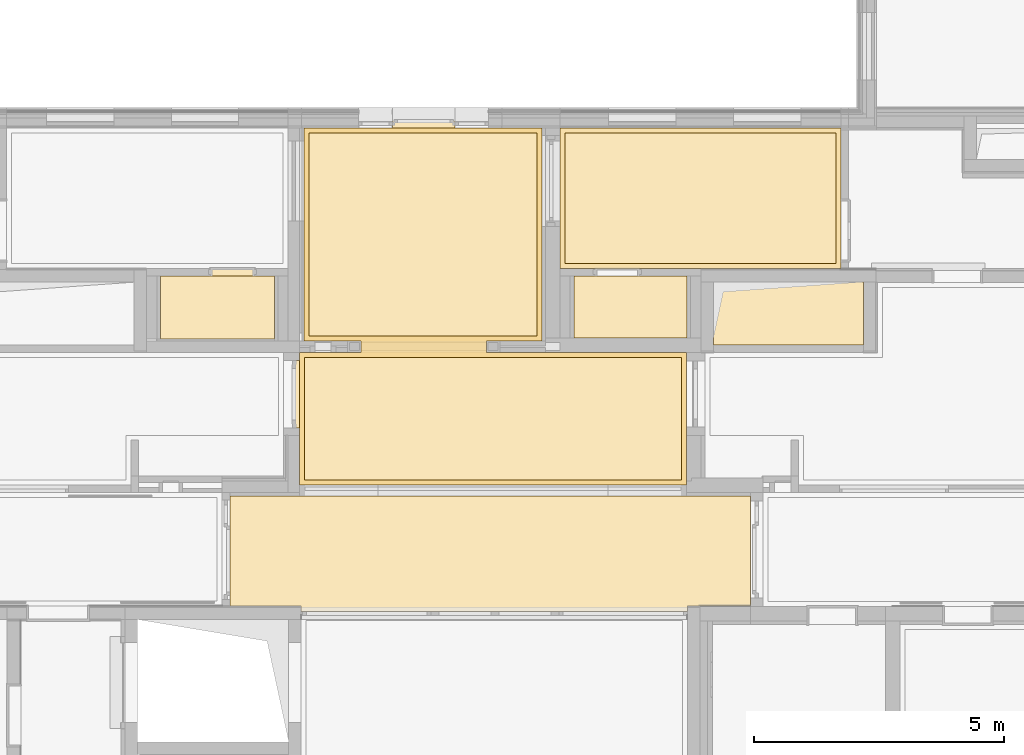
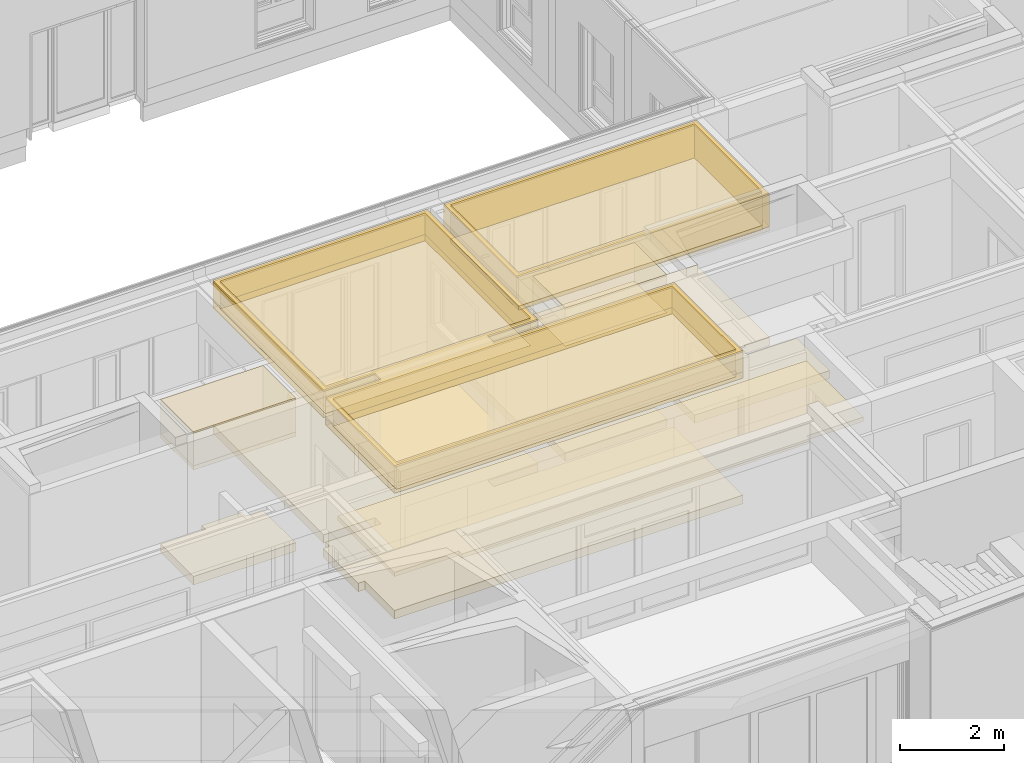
# One storey, part 168 of 207: 35 coverings.
"""IFC4 building model written with IfcOpenShell, lengths in metres."""

import ifcopenshell
import ifcopenshell.guid

model = None  # the IFC model being written
_history = None  # IfcOwnerHistory: only IFC2X3 demands one
_inside = {}  # id of a spatial element -> (the spatial element, [elements in it])
_under = {}  # id of a project, library or spatial element -> (it, [spatial elements below it])
_declared = {}  # id of a project -> (the project, [libraries it declares])
_typed = {}  # id of a type object -> (the type object, [elements of that type])
_made_of = {}  # id of a material, layer set ... -> (it, [elements and type objects made of it])


def new_model(schema):
    """Start an empty IFC model of exactly this schema.

    Asked for "IFC4X3", IfcOpenShell would pick the latest addendum, in which some entities
    have other attributes; the version numbers below select the first issue.
    IFC2X3 requires an IfcOwnerHistory on every rooted entity: one is made here for all.
    """
    global model, _history
    if schema == "IFC4X3":
        model = ifcopenshell.file(schema_version=(4, 3, 0, 0))
    else:
        model = ifcopenshell.file(schema=schema)
    _inside.clear()
    _under.clear()
    _declared.clear()
    _typed.clear()
    _made_of.clear()
    _history = None
    if model.schema == "IFC2X3":
        org = make("IfcOrganization", Name="unknown")
        user = make(
            "IfcPersonAndOrganization",
            ThePerson=make("IfcPerson", FamilyName="unknown"),
            TheOrganization=org,
        )
        app = make(
            "IfcApplication",
            ApplicationDeveloper=org,
            Version="unknown",
            ApplicationFullName="unknown",
            ApplicationIdentifier="unknown",
        )
        _history = make(
            "IfcOwnerHistory",
            OwningUser=user,
            OwningApplication=app,
            ChangeAction="ADDED",
            CreationDate=0,
        )
    return model


def make(cls, **values):
    """One entity of the class cls with the attributes given. An attribute that is None is left unset."""
    return model.create_entity(
        cls, **{name: value for name, value in values.items() if value is not None}
    )


def entity(cls, *values):
    """Any entity or typed value of the class cls, its attributes in the order of the schema. None: left unset."""
    e = model.create_entity(cls)
    for i, value in enumerate(values):
        if value is not None:
            e[i] = value
    return e


def rooted(cls, **values):
    """An entity with a GlobalId (a new one), such as an element, a storey or a relation."""
    return make(cls, GlobalId=ifcopenshell.guid.new(), OwnerHistory=_history, **values)


def si_unit(unit_type, name, prefix=None):
    """IfcSIUnit, for example si_unit("LENGTHUNIT", "METRE", prefix="MILLI")."""
    return make("IfcSIUnit", UnitType=unit_type, Prefix=prefix, Name=name)


def converted_unit(unit_type, name, factor, base, dimensions=None, offset=None):
    """IfcConversionBasedUnit, such as the inch: factor (a typed value) times the base unit."""
    return make(
        "IfcConversionBasedUnit"
        if offset is None
        else "IfcConversionBasedUnitWithOffset",
        ConversionOffset=offset,
        Dimensions=None
        if dimensions is None
        else entity("IfcDimensionalExponents", *dimensions),
        UnitType=unit_type,
        Name=name,
        ConversionFactor=make(
            "IfcMeasureWithUnit", ValueComponent=factor, UnitComponent=base
        ),
    )


def derived_unit(unit_type, elements):
    """IfcDerivedUnit: a product of units, each with its exponent."""
    return make(
        "IfcDerivedUnit",
        Elements=[
            make("IfcDerivedUnitElement", Unit=unit, Exponent=power)
            for unit, power in elements
        ],
        UnitType=unit_type,
    )


def assignment(units):
    """IfcUnitAssignment: the units of a project."""
    return None if units is None else make("IfcUnitAssignment", Units=units)


def point(xyz):
    """IfcCartesianPoint."""
    return None if xyz is None else make("IfcCartesianPoint", Coordinates=xyz)


def direction(xyz):
    """IfcDirection."""
    return None if xyz is None else make("IfcDirection", DirectionRatios=xyz)


def frame(location, z_axis=None, x_axis=None):
    """IfcAxis2Placement3D, a coordinate frame: its origin and axes. An axis left out is left unset."""
    return make(
        "IfcAxis2Placement3D",
        Location=point(location),
        Axis=direction(z_axis),
        RefDirection=direction(x_axis),
    )


def frame_2d(location, x_axis=None):
    """IfcAxis2Placement2D, a coordinate frame in the plane: its origin and x axis."""
    return make(
        "IfcAxis2Placement2D", Location=point(location), RefDirection=direction(x_axis)
    )


def origin():
    """The frame at (0, 0, 0) with its axes left unset."""
    return frame((0.0, 0.0, 0.0))


def origin_with_axes():
    """The frame at (0, 0, 0) with the z axis (0, 0, 1) and the x axis (1, 0, 0) written out."""
    return frame((0.0, 0.0, 0.0), z_axis=(0.0, 0.0, 1.0), x_axis=(1.0, 0.0, 0.0))


def place(relative_to, where):
    """IfcLocalPlacement: puts the frame where relative to a parent placement (None: the world)."""
    return make(
        "IfcLocalPlacement", PlacementRelTo=relative_to, RelativePlacement=where
    )


def context(
    kind, dimensions, precision=None, world=None, true_north=None, identifier=None
):
    """IfcGeometricRepresentationContext, for example the 3D "Model" context."""
    return make(
        "IfcGeometricRepresentationContext",
        ContextIdentifier=identifier,
        ContextType=kind,
        CoordinateSpaceDimension=dimensions,
        Precision=precision,
        WorldCoordinateSystem=world,
        TrueNorth=true_north,
    )


def subcontext(parent, identifier, kind, view, scale=None):
    """IfcGeometricRepresentationSubContext, for example "Body" below "Model"."""
    return make(
        "IfcGeometricRepresentationSubContext",
        ContextIdentifier=identifier,
        ContextType=kind,
        ParentContext=parent,
        TargetScale=scale,
        TargetView=view,
    )


def project(units=None, contexts=None):
    """IfcProject with its units and contexts."""
    return rooted(
        "IfcProject",
        Name="project",
        RepresentationContexts=contexts,
        UnitsInContext=assignment(units),
    )


def spatial(cls, under=None, at=None, **own):
    """A site, building, storey or space (cls), placed at a placement, below another one or the project."""
    s = rooted(cls, ObjectPlacement=at, **own)
    if under is not None:
        _under.setdefault(under.id(), (under, []))[1].append(s)
    return s


def polyline(points):
    """IfcPolyline through the points."""
    return make("IfcPolyline", Points=[point(p) for p in points])


def profile(cls, at=None, kind="AREA", **sizes):
    """A parametric profile (cls). Its sizes go by their IFC names, for example OverallWidth=200.0."""
    return make(cls, ProfileType=kind, Position=at, **sizes)


def rectangle(**sizes):
    """IfcRectangleProfileDef."""
    return profile("IfcRectangleProfileDef", **sizes)


def outline(outer, holes=None, kind="AREA"):
    """IfcArbitraryClosedProfileDef: a profile drawn as a closed curve; with holes, ...WithVoids."""
    if holes is None:
        return make("IfcArbitraryClosedProfileDef", ProfileType=kind, OuterCurve=outer)
    return make(
        "IfcArbitraryProfileDefWithVoids",
        ProfileType=kind,
        OuterCurve=outer,
        InnerCurves=holes,
    )


def extrude(swept, where, along, depth):
    """IfcExtrudedAreaSolid: the profile swept, set in the frame where, extruded along a direction by depth."""
    return make(
        "IfcExtrudedAreaSolid",
        SweptArea=swept,
        Position=where,
        ExtrudedDirection=direction(along),
        Depth=depth,
    )


def shape(context_of_items, identifier, shape_type, items):
    """IfcShapeRepresentation: the items that make up one representation, for example the "Body"."""
    return make(
        "IfcShapeRepresentation",
        ContextOfItems=context_of_items,
        RepresentationIdentifier=identifier,
        RepresentationType=shape_type,
        Items=items,
    )


def material(Name=None, Category=None):
    """IfcMaterial."""
    return make("IfcMaterial", Name=Name, Category=Category)


def layer(
    of_material, thickness, ventilated=None, Name=None, Category=None, Priority=None
):
    """IfcMaterialLayer: one layer of a wall or slab, of a material (None: an air gap)."""
    return make(
        "IfcMaterialLayer",
        Material=of_material,
        LayerThickness=thickness,
        IsVentilated=ventilated,
        Name=Name,
        Category=Category,
        Priority=Priority,
    )


def layer_set(layers, Name=None):
    """IfcMaterialLayerSet."""
    return make("IfcMaterialLayerSet", MaterialLayers=layers, LayerSetName=Name)


def layer_usage(for_layer_set, set_direction, sense, offset, extent=None):
    """IfcMaterialLayerSetUsage: how a layer set lies in its element."""
    return make(
        "IfcMaterialLayerSetUsage",
        ForLayerSet=for_layer_set,
        LayerSetDirection=set_direction,
        DirectionSense=sense,
        OffsetFromReferenceLine=offset,
        ReferenceExtent=extent,
    )


def made_of(thing, what):
    """Note that an element or type object is made of a material, layer set ...; save() writes the relation."""
    if what is not None:
        _made_of.setdefault(what.id(), (what, []))[1].append(thing)
    return thing


def element(
    cls,
    number,
    at=None,
    inside=None,
    cuts=None,
    type_object=None,
    material=None,
    context=None,
    identifier="Body",
    shape_type=None,
    held_by="IfcProductDefinitionShape",
    body=None,
    shapes=None,
    **own,
):
    """One element of the class cls, such as IfcWall. Its Tag is "e" and its number.

    at: its placement. inside: the storey or other place that contains it. cuts: it is an
    opening in that element (IfcRelVoidsElement). A single representation is given by context,
    identifier, shape_type and body (its items); several are given by shapes. held_by: the class
    of the entity that holds the representations. save() writes the other relations.
    """
    e = rooted(cls, Tag="e%d" % number, ObjectPlacement=at, **own)
    if body is not None:
        shapes = [shape(context, identifier, shape_type, body)]
    if shapes is not None:
        e.Representation = make(held_by, Representations=shapes)
    if inside is not None:
        _inside.setdefault(inside.id(), (inside, []))[1].append(e)
    if cuts is not None:
        rooted(
            "IfcRelVoidsElement", RelatingBuildingElement=cuts, RelatedOpeningElement=e
        )
    if type_object is not None:
        _typed.setdefault(type_object.id(), (type_object, []))[1].append(e)
    return made_of(e, material)


def aggregate(whole, parts):
    """IfcRelAggregates: a whole, such as a stair, and the parts it consists of."""
    return rooted("IfcRelAggregates", RelatingObject=whole, RelatedObjects=parts)


def save(model, path):
    """Write the relations noted so far, then the file.

    IfcRelAggregates (storeys below a building ...), IfcRelContainedInSpatialStructure (elements
    in a storey), IfcRelDefinesByType, IfcRelAssociatesMaterial and IfcRelDeclares: one each for
    every whole, place, type object, material and project.
    """
    for whole, parts in _under.values():
        aggregate(whole, parts)
    for where, things in _inside.values():
        rooted(
            "IfcRelContainedInSpatialStructure",
            RelatedElements=things,
            RelatingStructure=where,
        )
    for kind, things in _typed.values():
        rooted("IfcRelDefinesByType", RelatedObjects=things, RelatingType=kind)
    for what, things in _made_of.values():
        rooted("IfcRelAssociatesMaterial", RelatedObjects=things, RelatingMaterial=what)
    for by, libraries in _declared.values():
        rooted("IfcRelDeclares", RelatingContext=by, RelatedDefinitions=libraries)
    model.write(path)


model = new_model("IFC4")

# Units and contexts
model_context = context("Model", 3, precision=1e-05, world=origin())
body_context = subcontext(model_context, "Body", "Model", "MODEL_VIEW")
ifc_project = project(units=[si_unit("LENGTHUNIT", "METRE"), si_unit("AREAUNIT", "SQUARE_METRE"), si_unit("VOLUMEUNIT", "CUBIC_METRE"), si_unit("MASSUNIT", "GRAM", prefix="KILO"), converted_unit("PLANEANGLEUNIT", "DEGREE", entity("IfcPlaneAngleMeasure", 0.0174532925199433), si_unit("PLANEANGLEUNIT", "RADIAN"), dimensions=[0, 0, 0, 0, 0, 0, 0]), derived_unit("THERMALTRANSMITTANCEUNIT", [(si_unit("POWERUNIT", "WATT"), 1), (si_unit("THERMODYNAMICTEMPERATUREUNIT", "KELVIN"), -1), (si_unit("LENGTHUNIT", "METRE"), -2)]), derived_unit("VOLUMETRICFLOWRATEUNIT", [(si_unit("LENGTHUNIT", "METRE"), 3), (converted_unit("TIMEUNIT", "hour", entity("IfcTimeMeasure", 3600.0), si_unit("TIMEUNIT", "SECOND"), dimensions=[0, 0, 1, 0, 0, 0, 0]), -1), (si_unit("LENGTHUNIT", "METRE"), -1)])], contexts=[model_context])

# Site, building, storey
site_placement = place(None, origin())
site = spatial("IfcSite", under=ifc_project, at=site_placement, Name="Psychiatrie Neubau Wunstorf", CompositionType="ELEMENT")
building_placement = place(site_placement, origin())
building = spatial("IfcBuilding", under=site, at=building_placement, Name="Neubau H2 Stationsgebäude", CompositionType="ELEMENT")
storey_placement = place(building_placement, frame((0.0, 0.0, -0.2)))
storey = spatial("IfcBuildingStorey", under=building, at=storey_placement, Name="H2 Ebene 0", CompositionType="ELEMENT", Elevation=-0.2)

# Covering
ifc_material_1 = material(Name="SE")
ifc_layer_1 = layer(ifc_material_1, 0.19)
ifc_layer_set_1 = layer_set([ifc_layer_1])
ifc_layer_usage_1 = layer_usage(ifc_layer_set_1, "AXIS3", "POSITIVE", 0.0)
covering_1_placement = place(storey_placement, frame((58.8000000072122, 5.76749969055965, 0.0)))
element("IfcCovering", 1, at=covering_1_placement, inside=storey, material=ifc_layer_usage_1, Name="Estrich", PredefinedType="FLOORING", context=body_context, shape_type="SweptSolid", body=[
    extrude(rectangle(XDim=1.25749999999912, YDim=2.99999999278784, at=frame_2d((1.49999999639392, -0.628749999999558), x_axis=(0.0, -1.0))), frame((0.0, 1.25749999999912, 0.0), z_axis=(0.0, 0.0, 1.0), x_axis=(1.0, 0.0, 0.0)), (0.0, 0.0, 1.0), 0.19),
])

# Space
space_1_placement = place(storey_placement, frame((49.1196999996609, 0.436002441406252, 0.0)))
space_1 = spatial("IfcSpace", under=storey, at=space_1_placement, Name="WUN-H2-E00-F01", CompositionType="ELEMENT")

# Coverings
ifc_material_2 = material(Name="A1")
ifc_layer_2 = layer(ifc_material_2, 0.1)
ifc_layer_set_2 = layer_set([ifc_layer_2])
ifc_layer_usage_2 = layer_usage(ifc_layer_set_2, "AXIS3", "POSITIVE", 0.0)
covering_2_placement = place(space_1_placement, frame((0.0, 0.0, 3.05)))
element("IfcCovering", 2, at=covering_2_placement, inside=space_1, material=ifc_layer_usage_2, Name="Gipsfaserplatten 2-lagig (BSK)", PredefinedType="CEILING", context=body_context, shape_type="SweptSolid", body=[
    extrude(outline(polyline([(0.0, 0.000108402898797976), (10.4196138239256, 0.0), (10.4196138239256, 2.19360809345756), (9.15829513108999, 2.19360809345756), (9.15830000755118, 2.30660565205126), (1.43030000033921, 2.30660565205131), (1.43030000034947, 2.19360809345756), (0.0, 2.19360809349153), (0.0, 0.000108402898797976)])), frame((0.0, 2.30660565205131, 0.0), z_axis=(0.0, 0.0, -1.0), x_axis=(1.0, 0.0, 0.0)), (0.0, 0.0, 1.0), 0.1),
])
ifc_material_3 = material(Name="D1")
ifc_layer_3 = layer(ifc_material_3, 0.001)
ifc_layer_set_3 = layer_set([ifc_layer_3])
ifc_layer_usage_3 = layer_usage(ifc_layer_set_3, "AXIS3", "POSITIVE", 0.0)
covering_3_placement = place(space_1_placement, frame((0.0, 0.0, 2.95)))
element("IfcCovering", 3, at=covering_3_placement, inside=space_1, material=ifc_layer_usage_3, Name="Gipsfaserplatten 2-lagig (BSK)", PredefinedType="CEILING", context=body_context, shape_type="SweptSolid", body=[
    extrude(outline(polyline([(0.0, 0.000108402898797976), (10.4196138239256, 0.0), (10.4196138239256, 2.19360809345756), (9.15829513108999, 2.19360809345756), (9.15830000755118, 2.30660565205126), (1.43030000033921, 2.30660565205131), (1.43030000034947, 2.19360809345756), (0.0, 2.19360809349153), (0.0, 0.000108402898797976)])), frame((0.0, 2.30660565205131, 0.0), z_axis=(0.0, 0.0, -1.0), x_axis=(1.0, 0.0, 0.0)), (0.0, 0.0, 1.0), 0.001),
])

# Space
space_2_placement = place(storey_placement, frame((56.0075000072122, 5.90749969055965, 0.0)))
space_2 = spatial("IfcSpace", under=storey, at=space_2_placement, Name="WUN-H2-E00-064b", CompositionType="ELEMENT")

# Coverings
ifc_material_4 = material(Name="Fl1")
ifc_layer_4 = layer(ifc_material_4, 0.2)
ifc_layer_set_4 = layer_set([ifc_layer_4])
ifc_layer_usage_4 = layer_usage(ifc_layer_set_4, "AXIS3", "POSITIVE", 0.0)
covering_4_placement = place(space_2_placement, origin())
element("IfcCovering", 4, at=covering_4_placement, inside=space_2, material=ifc_layer_usage_4, Name="Fliesen", PredefinedType="FLOORING", context=body_context, shape_type="SweptSolid", body=[
    extrude(outline(polyline([(2.25749999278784, 0.0), (2.2575, 1.24249999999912), (0.0, 1.24222076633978), (0.0, 0.0), (2.25749999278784, 0.0)])), origin_with_axes(), (0.0, 0.0, 1.0), 0.2),
])
ifc_material_5 = material()
ifc_layer_5 = layer(ifc_material_5, 0.036)
ifc_layer_set_5 = layer_set([ifc_layer_5])
ifc_layer_usage_5 = layer_usage(ifc_layer_set_5, "AXIS3", "POSITIVE", 0.0)
covering_5_placement = place(space_2_placement, frame((0.0, 0.0, 3.6)))
element("IfcCovering", 5, at=covering_5_placement, inside=space_2, material=ifc_layer_usage_5, Name="Gipsfaserplatten 2-lagig (BSK)", PredefinedType="CEILING", context=body_context, shape_type="SweptSolid", body=[
    extrude(outline(polyline([(2.2575, 0.0), (2.25749999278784, 1.24249999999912), (0.0, 1.24249999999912), (0.0, 0.00027923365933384), (2.2575, 0.0)])), frame((0.0, 1.24249999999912, 0.0), z_axis=(0.0, 0.0, -1.0), x_axis=(1.0, 0.0, 0.0)), (0.0, 0.0, 1.0), 0.036),
])
ifc_material_6 = material(Name="Installationshöhe")
ifc_layer_6 = layer(ifc_material_6, 0.764)
ifc_layer_set_6 = layer_set([ifc_layer_6])
ifc_layer_usage_6 = layer_usage(ifc_layer_set_6, "AXIS3", "POSITIVE", 0.0)
covering_6_placement = place(space_2_placement, frame((0.0, 0.0, 3.564)))
element("IfcCovering", 6, at=covering_6_placement, inside=space_2, material=ifc_layer_usage_6, PredefinedType="CEILING", context=body_context, shape_type="SweptSolid", body=[
    extrude(outline(polyline([(2.2575, 0.0), (2.25749999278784, 1.24249999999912), (0.0, 1.24249999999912), (0.0, 0.00027923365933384), (2.2575, 0.0)])), frame((0.0, 1.24249999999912, 0.0), z_axis=(0.0, 0.0, -1.0), x_axis=(1.0, 0.0, 0.0)), (0.0, 0.0, 1.0), 0.764),
])
ifc_material_7 = material(Name="B")
ifc_layer_7 = layer(ifc_material_7, 0.1)
ifc_layer_set_7 = layer_set([ifc_layer_7])
ifc_layer_usage_7 = layer_usage(ifc_layer_set_7, "AXIS3", "POSITIVE", 0.0)
covering_7_placement = place(space_2_placement, frame((0.0, 0.0, 2.8)))
element("IfcCovering", 7, at=covering_7_placement, inside=space_2, material=ifc_layer_usage_7, Name="Gipskarton, imprägniert", PredefinedType="CEILING", context=body_context, shape_type="SweptSolid", body=[
    extrude(outline(polyline([(2.2575, 0.0), (2.25749999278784, 1.24249999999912), (0.0, 1.24249999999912), (0.0, 0.00027923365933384), (2.2575, 0.0)])), frame((0.0, 1.24249999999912, 0.0), z_axis=(0.0, 0.0, -1.0), x_axis=(1.0, 0.0, 0.0)), (0.0, 0.0, 1.0), 0.1),
])
ifc_material_8 = material(Name="D1")
ifc_layer_8 = layer(ifc_material_8, 0.001)
ifc_layer_set_8 = layer_set([ifc_layer_8])
ifc_layer_usage_8 = layer_usage(ifc_layer_set_8, "AXIS3", "POSITIVE", 0.0)
covering_8_placement = place(space_2_placement, frame((0.0, 0.0, 2.7)))
element("IfcCovering", 8, at=covering_8_placement, inside=space_2, material=ifc_layer_usage_8, PredefinedType="CEILING", context=body_context, shape_type="SweptSolid", body=[
    extrude(outline(polyline([(2.2575, 0.0), (2.25749999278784, 1.24249999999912), (0.0, 1.24249999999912), (0.0, 0.00027923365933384), (2.2575, 0.0)])), frame((0.0, 1.24249999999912, 0.0), z_axis=(0.0, 0.0, -1.0), x_axis=(1.0, 0.0, 0.0)), (0.0, 0.0, 1.0), 0.001),
])

# Space
space_3_placement = place(storey_placement, frame((47.735, 5.88950021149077, 0.0)))
space_3 = spatial("IfcSpace", under=storey, at=space_3_placement, Name="WUN-H2-E00-012b", CompositionType="ELEMENT")

# Coverings
ifc_material_9 = material(Name="Fl1")
ifc_layer_9 = layer(ifc_material_9, 0.2)
ifc_layer_set_9 = layer_set([ifc_layer_9])
ifc_layer_usage_9 = layer_usage(ifc_layer_set_9, "AXIS3", "POSITIVE", 0.0)
covering_9_placement = place(space_3_placement, origin())
element("IfcCovering", 9, at=covering_9_placement, inside=space_3, material=ifc_layer_usage_9, Name="Fliesen", PredefinedType="FLOORING", context=body_context, shape_type="SweptSolid", body=[
    extrude(rectangle(XDim=0.15, YDim=0.885, at=frame_2d((0.4425, -0.075), x_axis=(0.0, -1.0))), frame((0.997500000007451, 1.41049947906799, 0.0), z_axis=(0.0, 0.0, 1.0), x_axis=(1.0, 0.0, 0.0)), (0.0, 0.0, 1.0), 0.2),
    extrude(rectangle(XDim=2.27600000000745, YDim=1.26049947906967, at=frame_2d((-1.13800000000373, -0.630249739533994), x_axis=(-1.0, 7.4006335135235e-13))), frame((2.27600000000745, 1.26049947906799, 0.0), z_axis=(0.0, 0.0, 1.0), x_axis=(1.0, 0.0, 0.0)), (0.0, 0.0, 1.0), 0.2),
])
ifc_material_10 = material()
ifc_layer_10 = layer(ifc_material_10, 0.036)
ifc_layer_set_10 = layer_set([ifc_layer_10])
ifc_layer_usage_10 = layer_usage(ifc_layer_set_10, "AXIS3", "POSITIVE", 0.0)
covering_10_placement = place(space_3_placement, frame((0.0, 0.0, 3.6)))
element("IfcCovering", 10, at=covering_10_placement, inside=space_3, material=ifc_layer_usage_10, Name="Gipsfaserplatten 2-lagig (BSK)", PredefinedType="CEILING", context=body_context, shape_type="SweptSolid", body=[
    extrude(rectangle(XDim=2.27600000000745, YDim=1.26049947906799, at=frame_2d((1.13800000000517, 0.630249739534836), x_axis=(1.0, 7.4006335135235e-13))), frame((0.0, 1.26049947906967, 0.0), z_axis=(0.0, 0.0, -1.0), x_axis=(1.0, 0.0, 0.0)), (0.0, 0.0, 1.0), 0.036),
])
ifc_material_11 = material(Name="Installationshöhe")
ifc_layer_11 = layer(ifc_material_11, 0.764)
ifc_layer_set_11 = layer_set([ifc_layer_11])
ifc_layer_usage_11 = layer_usage(ifc_layer_set_11, "AXIS3", "POSITIVE", 0.0)
covering_11_placement = place(space_3_placement, frame((0.0, 0.0, 3.564)))
element("IfcCovering", 11, at=covering_11_placement, inside=space_3, material=ifc_layer_usage_11, PredefinedType="CEILING", context=body_context, shape_type="SweptSolid", body=[
    extrude(rectangle(XDim=2.27600000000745, YDim=1.26049947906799, at=frame_2d((1.13800000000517, 0.630249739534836), x_axis=(1.0, 7.4006335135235e-13))), frame((0.0, 1.26049947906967, 0.0), z_axis=(0.0, 0.0, -1.0), x_axis=(1.0, 0.0, 0.0)), (0.0, 0.0, 1.0), 0.764),
])
ifc_material_12 = material(Name="B")
ifc_layer_12 = layer(ifc_material_12, 0.1)
ifc_layer_set_12 = layer_set([ifc_layer_12])
ifc_layer_usage_12 = layer_usage(ifc_layer_set_12, "AXIS3", "POSITIVE", 0.0)
covering_12_placement = place(space_3_placement, frame((0.0, 0.0, 2.8)))
element("IfcCovering", 12, at=covering_12_placement, inside=space_3, material=ifc_layer_usage_12, Name="Gipskarton, imprägniert", PredefinedType="CEILING", context=body_context, shape_type="SweptSolid", body=[
    extrude(rectangle(XDim=2.27600000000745, YDim=1.26049947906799, at=frame_2d((1.13800000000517, 0.630249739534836), x_axis=(1.0, 7.4006335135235e-13))), frame((0.0, 1.26049947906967, 0.0), z_axis=(0.0, 0.0, -1.0), x_axis=(1.0, 0.0, 0.0)), (0.0, 0.0, 1.0), 0.1),
])
ifc_material_13 = material(Name="D1")
ifc_layer_13 = layer(ifc_material_13, 0.001)
ifc_layer_set_13 = layer_set([ifc_layer_13])
ifc_layer_usage_13 = layer_usage(ifc_layer_set_13, "AXIS3", "POSITIVE", 0.0)
covering_13_placement = place(space_3_placement, frame((0.0, 0.0, 2.7)))
element("IfcCovering", 13, at=covering_13_placement, inside=space_3, material=ifc_layer_usage_13, PredefinedType="CEILING", context=body_context, shape_type="SweptSolid", body=[
    extrude(rectangle(XDim=2.27600000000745, YDim=1.26049947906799, at=frame_2d((1.13800000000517, 0.630249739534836), x_axis=(1.0, 7.4006335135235e-13))), frame((0.0, 1.26049947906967, 0.0), z_axis=(0.0, 0.0, -1.0), x_axis=(1.0, 0.0, 0.0)), (0.0, 0.0, 1.0), 0.001),
])

# Space
space_4_placement = place(storey_placement, frame((50.5180000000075, 2.96738605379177, 0.0)))
space_4 = spatial("IfcSpace", under=storey, at=space_4_placement, Name="WUN-H2-E00-013a", CompositionType="ELEMENT")

# Coverings
ifc_material_14 = material(Name="Ku1")
ifc_layer_14 = layer(ifc_material_14, 0.2)
ifc_layer_set_14 = layer_set([ifc_layer_14])
ifc_layer_usage_14 = layer_usage(ifc_layer_set_14, "AXIS3", "POSITIVE", 0.0)
covering_14_placement = place(space_4_placement, frame((-0.147502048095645, 0.0, 0.0)))
element("IfcCovering", 14, at=covering_14_placement, inside=space_4, material=ifc_layer_usage_14, Name="PVC Bahnenware Holzoptik", PredefinedType="FLOORING", context=body_context, shape_type="SweptSolid", body=[
    extrude(rectangle(XDim=0.185000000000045, YDim=1.25, at=frame_2d((-0.625, 0.0925000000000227), x_axis=(0.0, 1.0))), frame((3.25320205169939, 7.14661363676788, 0.0), z_axis=(0.0, 0.0, 1.0), x_axis=(1.0, 0.0, 0.0)), (0.0, 0.0, 1.0), 0.2),
    extrude(rectangle(XDim=0.147498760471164, YDim=1.35500120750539, at=frame_2d((0.0737493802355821, 0.677500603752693), x_axis=(1.0, 0.0))), frame((3.28762448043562e-06, 1.1401141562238, 0.0), z_axis=(0.0, 0.0, 1.0), x_axis=(1.0, 0.0, 0.0)), (0.0, 0.0, 1.0), 0.2),
    extrude(outline(polyline([(7.74212635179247, 2.65011705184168), (3.73449325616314, 2.65011363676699), (3.73449325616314, 2.88211363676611), (4.84950000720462, 2.88211363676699), (4.84950000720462, 7.14661363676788), (0.0900000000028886, 7.14661363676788), (0.0900000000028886, 2.88211415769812), (1.22999538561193, 2.88211363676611), (1.22999538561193, 2.65011363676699), (0.0, 2.650114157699), (6.42965002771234e-06, 0.000120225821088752), (7.74213278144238, 0.0), (7.74212635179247, 2.65011705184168)])), frame((0.147502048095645, 0.0, 0.0), z_axis=(0.0, 0.0, 1.0), x_axis=(1.0, 0.0, 0.0)), (0.0, 0.0, 1.0), 0.2),
])
ifc_material_15 = material()
ifc_layer_15 = layer(ifc_material_15, 0.036)
ifc_layer_set_15 = layer_set([ifc_layer_15])
ifc_layer_usage_15 = layer_usage(ifc_layer_set_15, "AXIS3", "POSITIVE", 0.0)
covering_15_placement = place(space_4_placement, frame((0.0, 0.0, 3.6)))
element("IfcCovering", 15, at=covering_15_placement, inside=space_4, material=ifc_layer_usage_15, Name="Gipsfaserplatten 2-lagig (BSK)", PredefinedType="CEILING", context=body_context, shape_type="SweptSolid", body=[
    extrude(outline(polyline([(7.74200003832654, 4.4965), (7.74212599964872, 6.1614965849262), (7.74213278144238, 7.14661363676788), (6.42965002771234e-06, 7.14649341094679), (0.0, 4.49649947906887), (1.22999538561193, 4.49650000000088), (1.22999538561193, 4.26450000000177), (0.0900000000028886, 4.26449947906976), (0.0900000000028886, 0.0), (4.84950000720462, 0.0), (4.84950000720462, 4.26450000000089), (3.73449325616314, 4.26450000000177), (3.73449325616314, 4.49650000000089), (7.74200003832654, 4.4965)]), holes=[polyline([(4.74950000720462, 4.16450000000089), (4.74950000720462, 0.099830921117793), (0.190000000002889, 0.099830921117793), (0.190000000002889, 4.16450000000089), (4.74950000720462, 4.16450000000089)]), polyline([(0.1, 4.59649947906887), (0.100006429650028, 7.04649341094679), (7.64212189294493, 7.04661363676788), (7.64211546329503, 4.59649606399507), (0.1, 4.59649947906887)])]), frame((0.0, 7.14661363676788, 0.0), z_axis=(0.0, 0.0, -1.0), x_axis=(1.0, 0.0, 0.0)), (0.0, 0.0, 1.0), 0.036),
])
ifc_material_16 = material(Name="Installationshöhe")
ifc_layer_16 = layer(ifc_material_16, 0.464)
ifc_layer_set_16 = layer_set([ifc_layer_16])
ifc_layer_usage_16 = layer_usage(ifc_layer_set_16, "AXIS3", "POSITIVE", 0.0)
covering_16_placement = place(space_4_placement, frame((0.0, 0.0, 3.564)))
element("IfcCovering", 16, at=covering_16_placement, inside=space_4, material=ifc_layer_usage_16, Name="Gipsfaserplatten 2-lagig (BSK)", PredefinedType="CEILING", context=body_context, shape_type="SweptSolid", body=[
    extrude(outline(polyline([(7.74200003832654, 4.4965), (7.74212599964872, 6.1614965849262), (7.74213278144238, 7.14661363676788), (6.42965002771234e-06, 7.14649341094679), (0.0, 4.49649947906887), (1.22999538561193, 4.49650000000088), (1.22999538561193, 4.26450000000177), (0.0900000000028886, 4.26449947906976), (0.0900000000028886, 0.0), (4.84950000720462, 0.0), (4.84950000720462, 4.26450000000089), (3.73449325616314, 4.26450000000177), (3.73449325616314, 4.49650000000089), (7.74200003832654, 4.4965)]), holes=[polyline([(4.74950000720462, 4.16450000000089), (4.74950000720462, 0.099830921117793), (0.190000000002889, 0.099830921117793), (0.190000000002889, 4.16450000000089), (4.74950000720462, 4.16450000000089)]), polyline([(0.1, 4.59649947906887), (0.100006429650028, 7.04649341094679), (7.64212189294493, 7.04661363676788), (7.64211546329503, 4.59649606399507), (0.1, 4.59649947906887)])]), frame((0.0, 7.14661363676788, 0.0), z_axis=(0.0, 0.0, -1.0), x_axis=(1.0, 0.0, 0.0)), (0.0, 0.0, 1.0), 0.464),
])
ifc_material_17 = material(Name="A1")
ifc_layer_17 = layer(ifc_material_17, 0.15)
ifc_layer_set_17 = layer_set([ifc_layer_17])
ifc_layer_usage_17 = layer_usage(ifc_layer_set_17, "AXIS3", "POSITIVE", 0.0)
covering_17_placement = place(space_4_placement, frame((0.0, 0.0, 3.1)))
element("IfcCovering", 17, at=covering_17_placement, inside=space_4, material=ifc_layer_usage_17, Name="Gipsfaserplatten 2-lagig (BSK)", PredefinedType="CEILING", context=body_context, shape_type="SweptSolid", body=[
    extrude(outline(polyline([(7.74200003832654, 4.4965), (7.74212599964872, 6.1614965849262), (7.74213278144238, 7.14661363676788), (6.42965002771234e-06, 7.14649341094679), (0.0, 4.49649947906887), (1.22999538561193, 4.49650000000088), (1.22999538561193, 4.26450000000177), (0.0900000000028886, 4.26449947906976), (0.0900000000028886, 0.0), (4.84950000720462, 0.0), (4.84950000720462, 4.26450000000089), (3.73449325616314, 4.26450000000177), (3.73449325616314, 4.49650000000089), (7.74200003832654, 4.4965)]), holes=[polyline([(4.74950000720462, 4.16450000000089), (4.74950000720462, 0.099830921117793), (0.190000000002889, 0.099830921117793), (0.190000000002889, 4.16450000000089), (4.74950000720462, 4.16450000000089)]), polyline([(0.1, 4.59649947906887), (0.100006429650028, 7.04649341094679), (7.64212189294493, 7.04661363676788), (7.64211546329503, 4.59649606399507), (0.1, 4.59649947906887)])]), frame((0.0, 7.14661363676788, 0.0), z_axis=(0.0, 0.0, -1.0), x_axis=(1.0, 0.0, 0.0)), (0.0, 0.0, 1.0), 0.15),
])
ifc_material_18 = material(Name="D1")
ifc_layer_18 = layer(ifc_material_18, 0.001)
ifc_layer_set_18 = layer_set([ifc_layer_18])
ifc_layer_usage_18 = layer_usage(ifc_layer_set_18, "AXIS3", "POSITIVE", 0.0)
covering_18_placement = place(space_4_placement, frame((0.0, 0.0, 2.95)))
element("IfcCovering", 18, at=covering_18_placement, inside=space_4, material=ifc_layer_usage_18, Name="Gipsfaserplatten 2-lagig (BSK)", PredefinedType="CEILING", context=body_context, shape_type="SweptSolid", body=[
    extrude(outline(polyline([(7.74200003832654, 4.4965), (7.74212599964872, 6.1614965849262), (7.74213278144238, 7.14661363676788), (6.42965002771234e-06, 7.14649341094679), (0.0, 4.49649947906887), (1.22999538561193, 4.49650000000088), (1.22999538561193, 4.26450000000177), (0.0900000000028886, 4.26449947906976), (0.0900000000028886, 0.0), (4.84950000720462, 0.0), (4.84950000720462, 4.26450000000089), (3.73449325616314, 4.26450000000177), (3.73449325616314, 4.49650000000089), (7.74200003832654, 4.4965)]), holes=[polyline([(4.74950000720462, 4.16450000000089), (4.74950000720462, 0.099830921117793), (0.190000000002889, 0.099830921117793), (0.190000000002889, 4.16450000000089), (4.74950000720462, 4.16450000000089)]), polyline([(0.1, 4.59649947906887), (0.100006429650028, 7.04649341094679), (7.64212189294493, 7.04661363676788), (7.64211546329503, 4.59649606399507), (0.1, 4.59649947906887)])]), frame((0.0, 7.14661363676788, 0.0), z_axis=(0.0, 0.0, -1.0), x_axis=(1.0, 0.0, 0.0)), (0.0, 0.0, 1.0), 0.001),
])
ifc_material_19 = material()
ifc_layer_19 = layer(ifc_material_19, 0.036)
ifc_layer_set_19 = layer_set([ifc_layer_19])
ifc_layer_usage_19 = layer_usage(ifc_layer_set_19, "AXIS3", "POSITIVE", 0.0)
covering_19_placement = place(space_4_placement, frame((0.1, 0.0999999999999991, 3.6)))
element("IfcCovering", 19, at=covering_19_placement, inside=space_4, material=ifc_layer_usage_19, Name="Gipsfaserplatten 2-lagig (BSK)", PredefinedType="CEILING", context=body_context, shape_type="SweptSolid", body=[
    extrude(outline(polyline([(0.0, 3.41507380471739e-06), (7.54211546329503, 0.0), (7.54212189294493, 2.45011757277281), (6.42965002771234e-06, 2.44999734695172), (0.0, 3.41507380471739e-06)])), frame((0.0, 2.45011757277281, 0.0), z_axis=(0.0, 0.0, -1.0), x_axis=(1.0, 0.0, 0.0)), (0.0, 0.0, 1.0), 0.036),
])
ifc_material_20 = material(Name="Installationshöhe")
ifc_layer_20 = layer(ifc_material_20, 0.464)
ifc_layer_set_20 = layer_set([ifc_layer_20])
ifc_layer_usage_20 = layer_usage(ifc_layer_set_20, "AXIS3", "POSITIVE", 0.0)
covering_20_placement = place(space_4_placement, frame((0.1, 0.0999999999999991, 3.564)))
element("IfcCovering", 20, at=covering_20_placement, inside=space_4, material=ifc_layer_usage_20, Name="Gipsfaserplatten 2-lagig (BSK)", PredefinedType="CEILING", context=body_context, shape_type="SweptSolid", body=[
    extrude(outline(polyline([(0.0, 3.41507380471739e-06), (7.54211546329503, 0.0), (7.54212189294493, 2.45011757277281), (6.42965002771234e-06, 2.44999734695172), (0.0, 3.41507380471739e-06)])), frame((0.0, 2.45011757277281, 0.0), z_axis=(0.0, 0.0, -1.0), x_axis=(1.0, 0.0, 0.0)), (0.0, 0.0, 1.0), 0.464),
])
ifc_material_21 = material(Name="Aa")
ifc_layer_21 = layer(ifc_material_21, 0.15)
ifc_layer_set_21 = layer_set([ifc_layer_21])
ifc_layer_usage_21 = layer_usage(ifc_layer_set_21, "AXIS3", "POSITIVE", 0.0)
covering_21_placement = place(space_4_placement, frame((0.1, 0.0999999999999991, 3.1)))
element("IfcCovering", 21, at=covering_21_placement, inside=space_4, material=ifc_layer_usage_21, Name="Gipsfaserplatten 2-lagig (BSK)", PredefinedType="CEILING", context=body_context, shape_type="SweptSolid", body=[
    extrude(outline(polyline([(0.0, 3.41507380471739e-06), (7.54211546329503, 0.0), (7.54212189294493, 2.45011757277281), (6.42965002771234e-06, 2.44999734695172), (0.0, 3.41507380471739e-06)])), frame((0.0, 2.45011757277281, 0.0), z_axis=(0.0, 0.0, -1.0), x_axis=(1.0, 0.0, 0.0)), (0.0, 0.0, 1.0), 0.15),
])
ifc_material_22 = material(Name="D1")
ifc_layer_22 = layer(ifc_material_22, 0.001)
ifc_layer_set_22 = layer_set([ifc_layer_22])
ifc_layer_usage_22 = layer_usage(ifc_layer_set_22, "AXIS3", "POSITIVE", 0.0)
covering_22_placement = place(space_4_placement, frame((0.1, 0.0999999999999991, 2.95)))
element("IfcCovering", 22, at=covering_22_placement, inside=space_4, material=ifc_layer_usage_22, Name="Gipsfaserplatten 2-lagig (BSK)", PredefinedType="CEILING", context=body_context, shape_type="SweptSolid", body=[
    extrude(outline(polyline([(0.0, 3.41507380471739e-06), (7.54211546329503, 0.0), (7.54212189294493, 2.45011757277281), (6.42965002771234e-06, 2.44999734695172), (0.0, 3.41507380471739e-06)])), frame((0.0, 2.45011757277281, 0.0), z_axis=(0.0, 0.0, -1.0), x_axis=(1.0, 0.0, 0.0)), (0.0, 0.0, 1.0), 0.001),
])
ifc_material_23 = material()
ifc_layer_23 = layer(ifc_material_23, 0.036)
ifc_layer_set_23 = layer_set([ifc_layer_23])
ifc_layer_usage_23 = layer_usage(ifc_layer_set_23, "AXIS3", "POSITIVE", 0.0)
covering_23_placement = place(space_4_placement, frame((0.190000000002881, 2.98211363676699, 3.6)))
element("IfcCovering", 23, at=covering_23_placement, inside=space_4, material=ifc_layer_usage_23, Name="Gipsfaserplatten 2-lagig (BSK)", PredefinedType="CEILING", context=body_context, shape_type="SweptSolid", body=[
    extrude(rectangle(XDim=4.06466907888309, YDim=4.55950000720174, at=frame_2d((2.27975000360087, -2.03233453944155), x_axis=(0.0, -1.0))), frame((0.0, 0.0, 0.0), z_axis=(0.0, 0.0, -1.0), x_axis=(1.0, 0.0, 0.0)), (0.0, 0.0, 1.0), 0.036),
])
ifc_material_24 = material(Name="Installationshöhe")
ifc_layer_24 = layer(ifc_material_24, 0.464)
ifc_layer_set_24 = layer_set([ifc_layer_24])
ifc_layer_usage_24 = layer_usage(ifc_layer_set_24, "AXIS3", "POSITIVE", 0.0)
covering_24_placement = place(space_4_placement, frame((0.190000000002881, 2.98211363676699, 3.564)))
element("IfcCovering", 24, at=covering_24_placement, inside=space_4, material=ifc_layer_usage_24, Name="Gipsfaserplatten 2-lagig (BSK)", PredefinedType="CEILING", context=body_context, shape_type="SweptSolid", body=[
    extrude(rectangle(XDim=4.06466907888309, YDim=4.55950000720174, at=frame_2d((2.27975000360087, -2.03233453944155), x_axis=(0.0, -1.0))), frame((0.0, 0.0, 0.0), z_axis=(0.0, 0.0, -1.0), x_axis=(1.0, 0.0, 0.0)), (0.0, 0.0, 1.0), 0.464),
])
ifc_material_25 = material(Name="Aa")
ifc_layer_25 = layer(ifc_material_25, 0.15)
ifc_layer_set_25 = layer_set([ifc_layer_25])
ifc_layer_usage_25 = layer_usage(ifc_layer_set_25, "AXIS3", "POSITIVE", 0.0)
covering_25_placement = place(space_4_placement, frame((0.190000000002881, 2.98211363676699, 3.1)))
element("IfcCovering", 25, at=covering_25_placement, inside=space_4, material=ifc_layer_usage_25, Name="Gipsfaserplatten 2-lagig (BSK)", PredefinedType="CEILING", context=body_context, shape_type="SweptSolid", body=[
    extrude(rectangle(XDim=4.06466907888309, YDim=4.55950000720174, at=frame_2d((2.27975000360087, -2.03233453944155), x_axis=(0.0, -1.0))), frame((0.0, 0.0, 0.0), z_axis=(0.0, 0.0, -1.0), x_axis=(1.0, 0.0, 0.0)), (0.0, 0.0, 1.0), 0.15),
])
ifc_material_26 = material(Name="D1")
ifc_layer_26 = layer(ifc_material_26, 0.001)
ifc_layer_set_26 = layer_set([ifc_layer_26])
ifc_layer_usage_26 = layer_usage(ifc_layer_set_26, "AXIS3", "POSITIVE", 0.0)
covering_26_placement = place(space_4_placement, frame((0.190000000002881, 2.98211363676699, 2.95)))
element("IfcCovering", 26, at=covering_26_placement, inside=space_4, material=ifc_layer_usage_26, Name="Gipsfaserplatten 2-lagig (BSK)", PredefinedType="CEILING", context=body_context, shape_type="SweptSolid", body=[
    extrude(rectangle(XDim=4.06466907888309, YDim=4.55950000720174, at=frame_2d((2.27975000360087, -2.03233453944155), x_axis=(0.0, -1.0))), frame((0.0, 0.0, 0.0), z_axis=(0.0, 0.0, -1.0), x_axis=(1.0, 0.0, 0.0)), (0.0, 0.0, 1.0), 0.001),
])

# Space
space_5_placement = place(storey_placement, frame((55.7325000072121, 7.29999969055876, 0.0)))
space_5 = spatial("IfcSpace", under=storey, at=space_5_placement, Name="WUN-H2-E00-064a", CompositionType="ELEMENT")

# Coverings
ifc_material_27 = material(Name="Ku1")
ifc_layer_27 = layer(ifc_material_27, 0.2)
ifc_layer_set_27 = layer_set([ifc_layer_27])
ifc_layer_usage_27 = layer_usage(ifc_layer_set_27, "AXIS3", "POSITIVE", 0.0)
covering_27_placement = place(space_5_placement, origin())
element("IfcCovering", 27, at=covering_27_placement, inside=space_5, material=ifc_layer_usage_27, Name="PVC Bahnenware Holzoptik", PredefinedType="FLOORING", context=body_context, shape_type="SweptSolid", body=[
    extrude(rectangle(XDim=5.61749999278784, YDim=2.81400000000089, at=frame_2d((2.80874999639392, 1.40700000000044), x_axis=(1.0, 0.0))), origin_with_axes(), (0.0, 0.0, 1.0), 0.2),
])
ifc_material_28 = material()
ifc_layer_28 = layer(ifc_material_28, 0.036)
ifc_layer_set_28 = layer_set([ifc_layer_28])
ifc_layer_usage_28 = layer_usage(ifc_layer_set_28, "AXIS3", "POSITIVE", 0.0)
covering_28_placement = place(space_5_placement, frame((0.0, 0.0, 3.6)))
element("IfcCovering", 28, at=covering_28_placement, inside=space_5, material=ifc_layer_usage_28, Name="Gipsfaserplatten 2-lagig (BSK)", PredefinedType="CEILING", context=body_context, shape_type="SweptSolid", body=[
    extrude(outline(polyline([(0.0, 0.0), (5.61749999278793, 0.0), (5.61749999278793, 2.81400000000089), (0.0, 2.81400000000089), (0.0, 0.0)]), holes=[polyline([(0.1, 0.100000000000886), (0.1, 2.71400000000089), (5.51749999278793, 2.71400000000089), (5.51749999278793, 0.1), (0.1, 0.100000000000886)])]), frame((0.0, 2.81400000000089, 0.0), z_axis=(0.0, 0.0, -1.0), x_axis=(1.0, 0.0, 0.0)), (0.0, 0.0, 1.0), 0.036),
])
ifc_material_29 = material(Name="Installationshöhe")
ifc_layer_29 = layer(ifc_material_29, 0.764)
ifc_layer_set_29 = layer_set([ifc_layer_29])
ifc_layer_usage_29 = layer_usage(ifc_layer_set_29, "AXIS3", "POSITIVE", 0.0)
covering_29_placement = place(space_5_placement, frame((0.0, 0.0, 3.564)))
element("IfcCovering", 29, at=covering_29_placement, inside=space_5, material=ifc_layer_usage_29, Name="Gipsfaserplatten 2-lagig (BSK)", PredefinedType="CEILING", context=body_context, shape_type="SweptSolid", body=[
    extrude(outline(polyline([(0.0, 0.0), (5.61749999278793, 0.0), (5.61749999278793, 2.81400000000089), (0.0, 2.81400000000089), (0.0, 0.0)]), holes=[polyline([(0.1, 0.100000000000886), (0.1, 2.71400000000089), (5.51749999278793, 2.71400000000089), (5.51749999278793, 0.1), (0.1, 0.100000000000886)])]), frame((0.0, 2.81400000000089, 0.0), z_axis=(0.0, 0.0, -1.0), x_axis=(1.0, 0.0, 0.0)), (0.0, 0.0, 1.0), 0.764),
])
ifc_material_30 = material(Name="H7a")
ifc_layer_30 = layer(ifc_material_30, 0.1)
ifc_layer_set_30 = layer_set([ifc_layer_30])
ifc_layer_usage_30 = layer_usage(ifc_layer_set_30, "AXIS3", "POSITIVE", 0.0)
covering_30_placement = place(space_5_placement, frame((0.0, 0.0, 2.8)))
element("IfcCovering", 30, at=covering_30_placement, inside=space_5, material=ifc_layer_usage_30, Name="Kühldecke glatt", PredefinedType="CEILING", context=body_context, shape_type="SweptSolid", body=[
    extrude(outline(polyline([(0.0, 0.0), (5.61749999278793, 0.0), (5.61749999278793, 2.81400000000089), (0.0, 2.81400000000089), (0.0, 0.0)]), holes=[polyline([(0.1, 0.100000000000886), (0.1, 2.71400000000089), (5.51749999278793, 2.71400000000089), (5.51749999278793, 0.1), (0.1, 0.100000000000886)])]), frame((0.0, 2.81400000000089, 0.0), z_axis=(0.0, 0.0, -1.0), x_axis=(1.0, 0.0, 0.0)), (0.0, 0.0, 1.0), 0.1),
])
ifc_material_31 = material(Name="D1")
ifc_layer_31 = layer(ifc_material_31, 0.001)
ifc_layer_set_31 = layer_set([ifc_layer_31])
ifc_layer_usage_31 = layer_usage(ifc_layer_set_31, "AXIS3", "POSITIVE", 0.0)
covering_31_placement = place(space_5_placement, frame((0.0, 0.0, 2.7)))
element("IfcCovering", 31, at=covering_31_placement, inside=space_5, material=ifc_layer_usage_31, Name="Gipsfaserplatten 2-lagig (BSK)", PredefinedType="CEILING", context=body_context, shape_type="SweptSolid", body=[
    extrude(outline(polyline([(0.0, 0.0), (5.61749999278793, 0.0), (5.61749999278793, 2.81400000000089), (0.0, 2.81400000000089), (0.0, 0.0)]), holes=[polyline([(0.1, 0.100000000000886), (0.1, 2.71400000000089), (5.51749999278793, 2.71400000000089), (5.51749999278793, 0.1), (0.1, 0.100000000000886)])]), frame((0.0, 2.81400000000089, 0.0), z_axis=(0.0, 0.0, -1.0), x_axis=(1.0, 0.0, 0.0)), (0.0, 0.0, 1.0), 0.001),
])
ifc_material_32 = material()
ifc_layer_32 = layer(ifc_material_32, 0.036)
ifc_layer_set_32 = layer_set([ifc_layer_32])
ifc_layer_usage_32 = layer_usage(ifc_layer_set_32, "AXIS3", "POSITIVE", 0.0)
covering_32_placement = place(space_5_placement, frame((0.1, 0.100000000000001, 3.6)))
element("IfcCovering", 32, at=covering_32_placement, inside=space_5, material=ifc_layer_usage_32, Name="Gipsfaserplatten 2-lagig (BSK)", PredefinedType="CEILING", context=body_context, shape_type="SweptSolid", body=[
    extrude(rectangle(XDim=5.41749999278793, YDim=2.61400000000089, at=frame_2d((2.70874999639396, 1.307), x_axis=(1.0, -1.63515983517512e-13))), frame((0.0, 2.614, 0.0), z_axis=(0.0, 0.0, -1.0), x_axis=(1.0, 0.0, 0.0)), (0.0, 0.0, 1.0), 0.036),
])
ifc_material_33 = material(Name="Installationshöhe")
ifc_layer_33 = layer(ifc_material_33, 0.764)
ifc_layer_set_33 = layer_set([ifc_layer_33])
ifc_layer_usage_33 = layer_usage(ifc_layer_set_33, "AXIS3", "POSITIVE", 0.0)
covering_33_placement = place(space_5_placement, frame((0.1, 0.100000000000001, 3.564)))
element("IfcCovering", 33, at=covering_33_placement, inside=space_5, material=ifc_layer_usage_33, Name="Gipsfaserplatten 2-lagig (BSK)", PredefinedType="CEILING", context=body_context, shape_type="SweptSolid", body=[
    extrude(rectangle(XDim=5.41749999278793, YDim=2.61400000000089, at=frame_2d((2.70874999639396, 1.307), x_axis=(1.0, -1.63515983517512e-13))), frame((0.0, 2.614, 0.0), z_axis=(0.0, 0.0, -1.0), x_axis=(1.0, 0.0, 0.0)), (0.0, 0.0, 1.0), 0.764),
])
ifc_material_34 = material(Name="H7b")
ifc_layer_34 = layer(ifc_material_34, 0.1)
ifc_layer_set_34 = layer_set([ifc_layer_34])
ifc_layer_usage_34 = layer_usage(ifc_layer_set_34, "AXIS3", "POSITIVE", 0.0)
covering_34_placement = place(space_5_placement, frame((0.1, 0.100000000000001, 2.8)))
element("IfcCovering", 34, at=covering_34_placement, inside=space_5, material=ifc_layer_usage_34, Name="Kühldecke gelocht", PredefinedType="CEILING", context=body_context, shape_type="SweptSolid", body=[
    extrude(rectangle(XDim=5.41749999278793, YDim=2.61400000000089, at=frame_2d((2.70874999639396, 1.307), x_axis=(1.0, -1.63515983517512e-13))), frame((0.0, 2.614, 0.0), z_axis=(0.0, 0.0, -1.0), x_axis=(1.0, 0.0, 0.0)), (0.0, 0.0, 1.0), 0.1),
])
ifc_material_35 = material(Name="D1")
ifc_layer_35 = layer(ifc_material_35, 0.001)
ifc_layer_set_35 = layer_set([ifc_layer_35])
ifc_layer_usage_35 = layer_usage(ifc_layer_set_35, "AXIS3", "POSITIVE", 0.0)
covering_35_placement = place(space_5_placement, frame((0.1, 0.100000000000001, 2.7)))
element("IfcCovering", 35, at=covering_35_placement, inside=space_5, material=ifc_layer_usage_35, Name="Gipsfaserplatten 2-lagig (BSK)", PredefinedType="CEILING", context=body_context, shape_type="SweptSolid", body=[
    extrude(rectangle(XDim=5.41749999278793, YDim=2.61400000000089, at=frame_2d((2.70874999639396, 1.307), x_axis=(1.0, -1.63515983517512e-13))), frame((0.0, 2.614, 0.0), z_axis=(0.0, 0.0, -1.0), x_axis=(1.0, 0.0, 0.0)), (0.0, 0.0, 1.0), 0.001),
])

save(model, "model.ifc")
